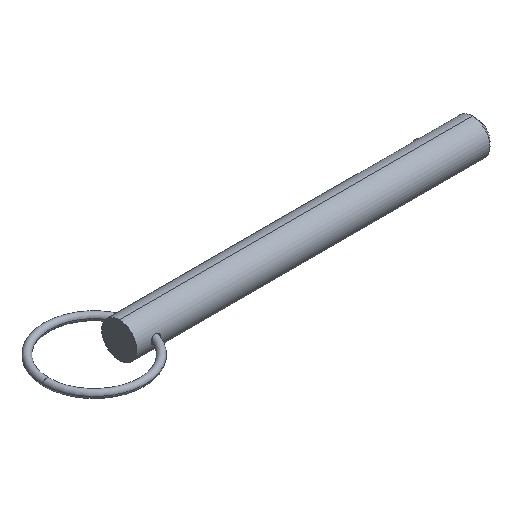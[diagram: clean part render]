
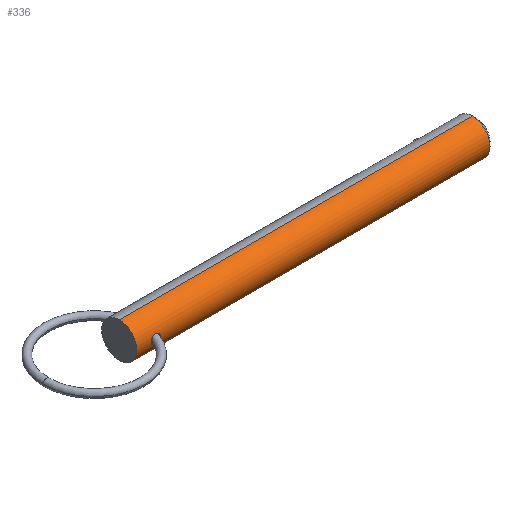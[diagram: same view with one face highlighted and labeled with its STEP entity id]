
A CAD part, isometric view. The second image highlights one B-rep face of the part: STEP entity #336.
In plain terms, the highlighted cylindrical face has radius 4.7 mm (diameter 9.4 mm), a partial arc.
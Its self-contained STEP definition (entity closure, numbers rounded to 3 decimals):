
#8 = CARTESIAN_POINT ( 'NONE',  ( 4.107, -4.644, -0.729 ) ) ;
#11 = CARTESIAN_POINT ( 'NONE',  ( 6.094, -4.642, -0.742 ) ) ;
#35 = ORIENTED_EDGE ( 'NONE', *, *, #265, .F. ) ;
#47 = CARTESIAN_POINT ( 'NONE',  ( 5.725, -4.583, 1.042 ) ) ;
#49 = CARTESIAN_POINT ( 'NONE',  ( 4.005, -4.663, 0.605 ) ) ;
#71 = CARTESIAN_POINT ( 'NONE',  ( 4.349, -4.607, -0.937 ) ) ;
#78 = CARTESIAN_POINT ( 'NONE',  ( 3.895, -4.684, -0.39 ) ) ;
#84 = CARTESIAN_POINT ( 'NONE',  ( 6.35, -4.7, -0.161 ) ) ;
#93 = EDGE_CURVE ( 'NONE', #772, #569, #193, .T. ) ;
#97 = CARTESIAN_POINT ( 'NONE',  ( 4.947, -4.552, 1.169 ) ) ;
#101 = CARTESIAN_POINT ( 'NONE',  ( 4.788, -4.561, 1.135 ) ) ;
#106 = CARTESIAN_POINT ( 'NONE',  ( 6.1, -4.641, 0.749 ) ) ;
#107 = CARTESIAN_POINT ( 'NONE',  ( 3.859, -4.691, 0.32 ) ) ;
#111 = CARTESIAN_POINT ( 'NONE',  ( 5.266, -4.551, 1.173 ) ) ;
#121 = B_SPLINE_CURVE_WITH_KNOTS ( 'NONE', 3,
 ( #811, #84, #209, #280, #220, #11, #549, #725, #673, #222, #474, #276, #142, #603, #71, #8, #808, #78, #413, #482, #537, #347 ),
 .UNSPECIFIED., .F., .F.,
 ( 4, 2, 2, 2, 2, 2, 2, 2, 2, 2, 4 ),
 ( 0.005, 0.005, 0.005, 0.006, 0.006, 0.007, 0.007, 0.008, 0.008, 0.008, 0.009 ),
 .UNSPECIFIED. ) ;
#126 = EDGE_CURVE ( 'NONE', #763, #414, #211, .T. ) ;
#142 = CARTESIAN_POINT ( 'NONE',  ( 4.785, -4.561, -1.135 ) ) ;
#147 = ORIENTED_EDGE ( 'NONE', *, *, #679, .T. ) ;
#177 = CARTESIAN_POINT ( 'NONE',  ( 6.35, -4.7, 0. ) ) ;
#185 = AXIS2_PLACEMENT_3D ( 'NONE', #738, #606, #731 ) ;
#193 = B_SPLINE_CURVE_WITH_KNOTS ( 'NONE', 3,
 ( #255, #778, #107, #49, #357, #559, #437, #101, #97, #849, #111, #503, #765, #376, #47, #719, #854, #106, #422, #490, #749, #365 ),
 .UNSPECIFIED., .F., .F.,
 ( 4, 2, 2, 2, 2, 2, 2, 2, 2, 2, 4 ),
 ( 0.001, 0.001, 0.002, 0.002, 0.003, 0.003, 0.003, 0.004, 0.004, 0.004, 0.005 ),
 .UNSPECIFIED. ) ;
#198 = AXIS2_PLACEMENT_3D ( 'NONE', #809, #483, #418 ) ;
#209 = CARTESIAN_POINT ( 'NONE',  ( 6.318, -4.691, -0.32 ) ) ;
#211 = CIRCLE ( 'NONE', #636, 4.7 ) ;
#213 = FACE_BOUND ( 'NONE', #245, .T. ) ;
#216 = ORIENTED_EDGE ( 'NONE', *, *, #324, .T. ) ;
#220 = CARTESIAN_POINT ( 'NONE',  ( 6.185, -4.66, -0.612 ) ) ;
#222 = CARTESIAN_POINT ( 'NONE',  ( 5.427, -4.556, -1.156 ) ) ;
#226 = CYLINDRICAL_SURFACE ( 'NONE', #185, 4.7 ) ;
#233 = EDGE_LOOP ( 'NONE', ( #274, #237, #147, #35 ) ) ;
#235 = CARTESIAN_POINT ( 'NONE',  ( 94.075, 0., 4.7 ) ) ;
#237 = ORIENTED_EDGE ( 'NONE', *, *, #126, .T. ) ;
#240 = CARTESIAN_POINT ( 'NONE',  ( 94.075, 0., -4.7 ) ) ;
#245 = EDGE_LOOP ( 'NONE', ( #527, #216 ) ) ;
#255 = CARTESIAN_POINT ( 'NONE',  ( 3.818, -4.7, 0. ) ) ;
#265 = EDGE_CURVE ( 'NONE', #561, #640, #567, .T. ) ;
#274 = ORIENTED_EDGE ( 'NONE', *, *, #495, .F. ) ;
#276 = CARTESIAN_POINT ( 'NONE',  ( 4.945, -4.552, -1.169 ) ) ;
#280 = CARTESIAN_POINT ( 'NONE',  ( 6.223, -4.669, -0.542 ) ) ;
#324 = EDGE_CURVE ( 'NONE', #569, #772, #121, .T. ) ;
#336 = ADVANCED_FACE ( 'NONE', ( #800, #213 ), #226, .T. ) ;
#347 = CARTESIAN_POINT ( 'NONE',  ( 3.818, -4.7, 0. ) ) ;
#357 = CARTESIAN_POINT ( 'NONE',  ( 4.108, -4.644, 0.73 ) ) ;
#365 = CARTESIAN_POINT ( 'NONE',  ( 6.35, -4.7, 0. ) ) ;
#376 = CARTESIAN_POINT ( 'NONE',  ( 5.654, -4.575, 1.076 ) ) ;
#382 = CARTESIAN_POINT ( 'NONE',  ( 0., 0., 4.7 ) ) ;
#413 = CARTESIAN_POINT ( 'NONE',  ( 3.867, -4.69, -0.315 ) ) ;
#414 = VERTEX_POINT ( 'NONE', #662 ) ;
#418 = DIRECTION ( 'NONE',  ( 0., 0., -1. ) ) ;
#422 = CARTESIAN_POINT ( 'NONE',  ( 6.193, -4.662, 0.614 ) ) ;
#425 = CARTESIAN_POINT ( 'NONE',  ( 0., 0., 4.7 ) ) ;
#437 = CARTESIAN_POINT ( 'NONE',  ( 4.491, -4.588, 1.02 ) ) ;
#449 = VECTOR ( 'NONE', #591, 1000. ) ;
#463 = LINE ( 'NONE', #847, #449 ) ;
#474 = CARTESIAN_POINT ( 'NONE',  ( 5.265, -4.55, -1.18 ) ) ;
#482 = CARTESIAN_POINT ( 'NONE',  ( 3.829, -4.698, -0.161 ) ) ;
#483 = DIRECTION ( 'NONE',  ( 1., 0., 0. ) ) ;
#490 = CARTESIAN_POINT ( 'NONE',  ( 6.317, -4.691, 0.321 ) ) ;
#495 = EDGE_CURVE ( 'NONE', #763, #561, #745, .T. ) ;
#503 = CARTESIAN_POINT ( 'NONE',  ( 5.424, -4.557, 1.149 ) ) ;
#527 = ORIENTED_EDGE ( 'NONE', *, *, #93, .T. ) ;
#537 = CARTESIAN_POINT ( 'NONE',  ( 3.818, -4.7, -0.08 ) ) ;
#549 = CARTESIAN_POINT ( 'NONE',  ( 6.041, -4.631, -0.803 ) ) ;
#550 = DIRECTION ( 'NONE',  ( 0., 0., -1. ) ) ;
#559 = CARTESIAN_POINT ( 'NONE',  ( 4.352, -4.607, 0.938 ) ) ;
#561 = VERTEX_POINT ( 'NONE', #235 ) ;
#567 = CIRCLE ( 'NONE', #198, 4.7 ) ;
#569 = VERTEX_POINT ( 'NONE', #177 ) ;
#591 = DIRECTION ( 'NONE',  ( 1., 0., 0. ) ) ;
#603 = CARTESIAN_POINT ( 'NONE',  ( 4.487, -4.589, -1.018 ) ) ;
#606 = DIRECTION ( 'NONE',  ( 1., 0., 0. ) ) ;
#610 = VECTOR ( 'NONE', #681, 1000. ) ;
#636 = AXIS2_PLACEMENT_3D ( 'NONE', #736, #701, #550 ) ;
#640 = VERTEX_POINT ( 'NONE', #240 ) ;
#662 = CARTESIAN_POINT ( 'NONE',  ( 0., 0., -4.7 ) ) ;
#673 = CARTESIAN_POINT ( 'NONE',  ( 5.727, -4.582, -1.05 ) ) ;
#679 = EDGE_CURVE ( 'NONE', #414, #640, #463, .T. ) ;
#681 = DIRECTION ( 'NONE',  ( 1., 0., 0. ) ) ;
#701 = DIRECTION ( 'NONE',  ( 1., 0., 0. ) ) ;
#717 = CARTESIAN_POINT ( 'NONE',  ( 3.818, -4.7, 0. ) ) ;
#719 = CARTESIAN_POINT ( 'NONE',  ( 5.861, -4.601, 0.96 ) ) ;
#725 = CARTESIAN_POINT ( 'NONE',  ( 5.867, -4.601, -0.966 ) ) ;
#731 = DIRECTION ( 'NONE',  ( 0., 0., -1. ) ) ;
#736 = CARTESIAN_POINT ( 'NONE',  ( 0., 0., 0. ) ) ;
#738 = CARTESIAN_POINT ( 'NONE',  ( 0., 0., 0. ) ) ;
#745 = LINE ( 'NONE', #425, #610 ) ;
#749 = CARTESIAN_POINT ( 'NONE',  ( 6.35, -4.7, 0.161 ) ) ;
#763 = VERTEX_POINT ( 'NONE', #382 ) ;
#765 = CARTESIAN_POINT ( 'NONE',  ( 5.503, -4.562, 1.13 ) ) ;
#772 = VERTEX_POINT ( 'NONE', #717 ) ;
#778 = CARTESIAN_POINT ( 'NONE',  ( 3.818, -4.7, 0.16 ) ) ;
#800 = FACE_OUTER_BOUND ( 'NONE', #233, .T. ) ;
#808 = CARTESIAN_POINT ( 'NONE',  ( 4.005, -4.663, -0.605 ) ) ;
#809 = CARTESIAN_POINT ( 'NONE',  ( 94.075, 0., 0. ) ) ;
#811 = CARTESIAN_POINT ( 'NONE',  ( 6.35, -4.7, 0. ) ) ;
#847 = CARTESIAN_POINT ( 'NONE',  ( 0., 0., -4.7 ) ) ;
#849 = CARTESIAN_POINT ( 'NONE',  ( 5.187, -4.55, 1.177 ) ) ;
#854 = CARTESIAN_POINT ( 'NONE',  ( 5.926, -4.611, 0.911 ) ) ;
